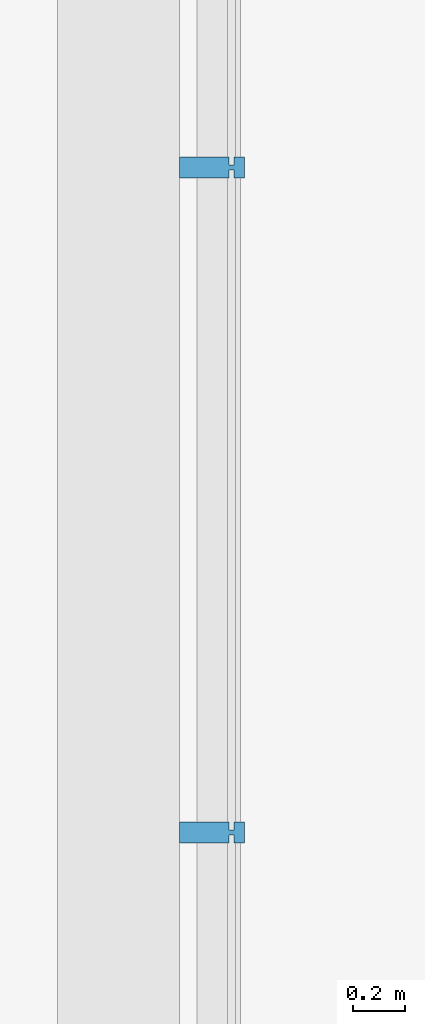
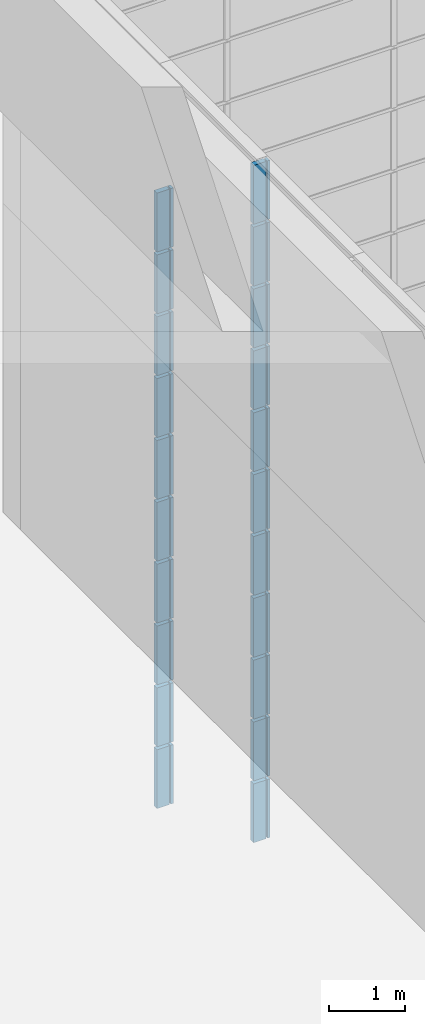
# One storey, part 78 of 105: 21 building element parts, 4 elements without a shape of their own.
"""IFC4 building model written with IfcOpenShell, lengths in millimetres."""

from ifc_helpers import new_model, entity, si_unit, converted_unit, derived_unit, direction, frame, origin_with_axes, place, context, subcontext, project, spatial, triangles, material, element, aggregate, save


model = new_model("IFC4")

# Units and contexts
model_context = context("Model", 3, precision=1e-05, world=origin_with_axes(), true_north=direction((0.0, 1.0)))
body_context = subcontext(model_context, "Body", "Model", "MODEL_VIEW")
ifc_project = project(units=[si_unit("LENGTHUNIT", "METRE", prefix="MILLI"), si_unit("AREAUNIT", "SQUARE_METRE"), si_unit("VOLUMEUNIT", "CUBIC_METRE"), converted_unit("PLANEANGLEUNIT", "DEGREE", entity("IfcLengthMeasure", 0.017453), si_unit("PLANEANGLEUNIT", "RADIAN"), dimensions=[0, 0, 0, 0, 0, 0, 0]), si_unit("SOLIDANGLEUNIT", "STERADIAN"), si_unit("MASSUNIT", "GRAM"), si_unit("TIMEUNIT", "SECOND"), si_unit("THERMODYNAMICTEMPERATUREUNIT", "DEGREE_CELSIUS"), si_unit("LUMINOUSINTENSITYUNIT", "LUMEN"), si_unit("POWERUNIT", "WATT"), derived_unit("THERMALTRANSMITTANCEUNIT", [(si_unit("POWERUNIT", "WATT"), 1), (si_unit("THERMODYNAMICTEMPERATUREUNIT", "KELVIN"), -1), (si_unit("AREAUNIT", "SQUARE_METRE"), -1)])], contexts=[model_context])

# Site, building, storey
site_placement = place(None, origin_with_axes())
site = spatial("IfcSite", under=ifc_project, at=site_placement, Name="Default Site", CompositionType="ELEMENT")
building_placement = place(site_placement, origin_with_axes())
building = spatial("IfcBuilding", under=site, at=building_placement, Name="Default Building", CompositionType="ELEMENT")
storey_placement = place(building_placement, origin_with_axes())
storey = spatial("IfcBuildingStorey", under=building, at=storey_placement, Name="OG - Story", CompositionType="ELEMENT", Elevation=0.0)

# Curtain wall, building element parts
curtain_wall_1_placement = place(storey_placement, origin_with_axes())
curtain_wall_1 = element("IfcCurtainWall", 1, at=curtain_wall_1_placement, inside=storey, Name="Fassade-006", PredefinedType="NOTDEFINED")
ifc_material = material(Name="Blech")
building_element_part_1_placement = place(curtain_wall_1_placement, frame((51421.391327, -39309.262838, 0.0), z_axis=(0.0, 0.0, 1.0), x_axis=(1.0, 0.0, 0.0)))
building_element_part_1 = element("IfcBuildingElementPart", 2, at=building_element_part_1_placement, material=ifc_material, Name="Blech", PredefinedType="NOTDEFINED", context=body_context, shape_type="Tessellation", body=[
    triangles([(50.0, 9000.0, 975.0), (10.0, 9000.0, 975.0), (50.0, 8920.0, 975.0), (10.0, 8970.0, 975.0), (10.0, 8950.0, 975.0), (-9.999, 8970.0, 975.0), (-9.999, 8950.0, 975.0), (-9.999, 8920.0, 975.0), (-9.999, 9000.0, 975.0), (-199.999, 9000.0, 975.0), (-199.999, 8920.0, 975.0), (10.0, 8920.0, 975.0), (-9.999, 8970.0, 25.0), (-9.999, 9000.0, 25.0), (-199.999, 9000.0, 25.0), (-199.999, 8920.0, 25.0), (-9.999, 8920.0, 25.0), (-9.999, 8950.0, 25.0), (10.0, 8950.0, 25.0), (10.0, 8920.0, 25.0), (50.0, 8920.0, 25.0), (50.0, 9000.0, 25.0), (10.0, 9000.0, 25.0), (10.0, 8970.0, 25.0)], [[1, 2, 3], [3, 2, 4], [3, 4, 5], [5, 4, 6], [5, 6, 7], [8, 9, 10], [8, 10, 11], [3, 5, 12], [9, 6, 13], [9, 13, 14], [9, 14, 15], [9, 15, 10], [10, 15, 16], [10, 16, 11], [8, 11, 16], [8, 16, 17], [8, 17, 18], [8, 18, 7], [7, 18, 19], [7, 19, 5], [12, 5, 19], [12, 19, 20], [20, 21, 3], [20, 3, 12], [3, 21, 22], [3, 22, 1], [23, 2, 1], [23, 1, 22], [4, 2, 23], [4, 23, 24], [6, 4, 24], [6, 24, 13], [21, 20, 22], [22, 20, 19], [22, 19, 24], [24, 19, 18], [24, 18, 13], [14, 17, 16], [14, 16, 15], [22, 24, 23]], closed=False),
])
building_element_part_2_placement = place(curtain_wall_1_placement, frame((51421.391327, -39309.262838, 0.0), z_axis=(0.0, 0.0, 1.0), x_axis=(1.0, 0.0, 0.0)))
building_element_part_2 = element("IfcBuildingElementPart", 3, at=building_element_part_2_placement, material=ifc_material, Name="Blech", PredefinedType="NOTDEFINED", context=body_context, shape_type="Tessellation", body=[
    triangles([(50.0, 6440.0, 1975.0), (10.0, 6440.0, 1975.0), (50.0, 6360.0, 1975.0), (10.0, 6410.0, 1975.0), (10.0, 6390.0, 1975.0), (-9.999, 6410.0, 1975.0), (-9.999, 6390.0, 1975.0), (-9.999, 6360.0, 1975.0), (-9.999, 6440.0, 1975.0), (-199.999, 6440.0, 1975.0), (-199.999, 6360.0, 1975.0), (10.0, 6360.0, 1975.0), (-9.999, 6410.0, 1025.0), (-9.999, 6440.0, 1025.0), (-199.999, 6440.0, 1025.0), (-199.999, 6360.0, 1025.0), (-9.999, 6360.0, 1025.0), (-9.999, 6390.0, 1025.0), (10.0, 6390.0, 1025.0), (10.0, 6360.0, 1025.0), (50.0, 6360.0, 1025.0), (50.0, 6440.0, 1025.0), (10.0, 6440.0, 1025.0), (10.0, 6410.0, 1025.0)], [[1, 2, 3], [3, 2, 4], [3, 4, 5], [5, 4, 6], [5, 6, 7], [8, 9, 10], [8, 10, 11], [3, 5, 12], [9, 6, 13], [9, 13, 14], [9, 14, 15], [9, 15, 10], [10, 15, 16], [10, 16, 11], [8, 11, 16], [8, 16, 17], [8, 17, 18], [8, 18, 7], [7, 18, 19], [7, 19, 5], [12, 5, 19], [12, 19, 20], [20, 21, 3], [20, 3, 12], [3, 21, 22], [3, 22, 1], [23, 2, 1], [23, 1, 22], [4, 2, 23], [4, 23, 24], [6, 4, 24], [6, 24, 13], [21, 20, 22], [22, 20, 19], [22, 19, 24], [24, 19, 18], [24, 18, 13], [14, 17, 16], [14, 16, 15], [22, 24, 23]], closed=False),
])
building_element_part_3_placement = place(curtain_wall_1_placement, frame((51421.391327, -39309.262838, 0.0), z_axis=(0.0, 0.0, 1.0), x_axis=(1.0, 0.0, 0.0)))
building_element_part_3 = element("IfcBuildingElementPart", 4, at=building_element_part_3_placement, material=ifc_material, Name="Blech", PredefinedType="NOTDEFINED", context=body_context, shape_type="Tessellation", body=[
    triangles([(50.0, 9000.0, 1975.0), (10.0, 9000.0, 1975.0), (50.0, 8920.0, 1975.0), (10.0, 8970.0, 1975.0), (10.0, 8950.0, 1975.0), (-9.999, 8970.0, 1975.0), (-9.999, 8950.0, 1975.0), (-9.999, 8920.0, 1975.0), (-9.999, 9000.0, 1975.0), (-199.999, 9000.0, 1975.0), (-199.999, 8920.0, 1975.0), (10.0, 8920.0, 1975.0), (-9.999, 8970.0, 1025.0), (-9.999, 9000.0, 1025.0), (-199.999, 9000.0, 1025.0), (-199.999, 8920.0, 1025.0), (-9.999, 8920.0, 1025.0), (-9.999, 8950.0, 1025.0), (10.0, 8950.0, 1025.0), (10.0, 8920.0, 1025.0), (50.0, 8920.0, 1025.0), (50.0, 9000.0, 1025.0), (10.0, 9000.0, 1025.0), (10.0, 8970.0, 1025.0)], [[1, 2, 3], [3, 2, 4], [3, 4, 5], [5, 4, 6], [5, 6, 7], [8, 9, 10], [8, 10, 11], [3, 5, 12], [9, 6, 13], [9, 13, 14], [9, 14, 15], [9, 15, 10], [10, 15, 16], [10, 16, 11], [8, 11, 16], [8, 16, 17], [8, 17, 18], [8, 18, 7], [7, 18, 19], [7, 19, 5], [12, 5, 19], [12, 19, 20], [20, 21, 3], [20, 3, 12], [3, 21, 22], [3, 22, 1], [23, 2, 1], [23, 1, 22], [4, 2, 23], [4, 23, 24], [6, 4, 24], [6, 24, 13], [21, 20, 22], [22, 20, 19], [22, 19, 24], [24, 19, 18], [24, 18, 13], [14, 17, 16], [14, 16, 15], [22, 24, 23]], closed=False),
])
building_element_part_4_placement = place(curtain_wall_1_placement, frame((51421.391327, -39309.262838, 0.0), z_axis=(0.0, 0.0, 1.0), x_axis=(1.0, 0.0, 0.0)))
building_element_part_4 = element("IfcBuildingElementPart", 5, at=building_element_part_4_placement, material=ifc_material, Name="Blech", PredefinedType="NOTDEFINED", context=body_context, shape_type="Tessellation", body=[
    triangles([(50.0, 6440.0, 2975.0), (10.0, 6440.0, 2975.0), (50.0, 6360.0, 2975.0), (10.0, 6410.0, 2975.0), (10.0, 6390.0, 2975.0), (-9.999, 6410.0, 2975.0), (-9.999, 6390.0, 2975.0), (-9.999, 6360.0, 2975.0), (-9.999, 6440.0, 2975.0), (-199.999, 6440.0, 2975.0), (-199.999, 6360.0, 2975.0), (10.0, 6360.0, 2975.0), (-9.999, 6410.0, 2025.0), (-9.999, 6440.0, 2025.0), (-199.999, 6440.0, 2025.0), (-199.999, 6360.0, 2025.0), (-9.999, 6360.0, 2025.0), (-9.999, 6390.0, 2025.0), (10.0, 6390.0, 2025.0), (10.0, 6360.0, 2025.0), (50.0, 6360.0, 2025.0), (50.0, 6440.0, 2025.0), (10.0, 6440.0, 2025.0), (10.0, 6410.0, 2025.0)], [[1, 2, 3], [3, 2, 4], [3, 4, 5], [5, 4, 6], [5, 6, 7], [8, 9, 10], [8, 10, 11], [3, 5, 12], [9, 6, 13], [9, 13, 14], [9, 14, 15], [9, 15, 10], [10, 15, 16], [10, 16, 11], [8, 11, 16], [8, 16, 17], [8, 17, 18], [8, 18, 7], [7, 18, 19], [7, 19, 5], [12, 5, 19], [12, 19, 20], [20, 21, 3], [20, 3, 12], [3, 21, 22], [3, 22, 1], [23, 2, 1], [23, 1, 22], [4, 2, 23], [4, 23, 24], [6, 4, 24], [6, 24, 13], [21, 20, 22], [22, 20, 19], [22, 19, 24], [24, 19, 18], [24, 18, 13], [14, 17, 16], [14, 16, 15], [22, 24, 23]], closed=False),
])
building_element_part_5_placement = place(curtain_wall_1_placement, frame((51421.391327, -39309.262838, 0.0), z_axis=(0.0, 0.0, 1.0), x_axis=(1.0, 0.0, 0.0)))
building_element_part_5 = element("IfcBuildingElementPart", 6, at=building_element_part_5_placement, material=ifc_material, Name="Blech", PredefinedType="NOTDEFINED", context=body_context, shape_type="Tessellation", body=[
    triangles([(50.0, 9000.0, 2975.0), (10.0, 9000.0, 2975.0), (50.0, 8920.0, 2975.0), (10.0, 8970.0, 2975.0), (10.0, 8950.0, 2975.0), (-9.999, 8970.0, 2975.0), (-9.999, 8950.0, 2975.0), (-9.999, 8920.0, 2975.0), (-9.999, 9000.0, 2975.0), (-199.999, 9000.0, 2975.0), (-199.999, 8920.0, 2975.0), (10.0, 8920.0, 2975.0), (-9.999, 8970.0, 2025.0), (-9.999, 9000.0, 2025.0), (-199.999, 9000.0, 2025.0), (-199.999, 8920.0, 2025.0), (-9.999, 8920.0, 2025.0), (-9.999, 8950.0, 2025.0), (10.0, 8950.0, 2025.0), (10.0, 8920.0, 2025.0), (50.0, 8920.0, 2025.0), (50.0, 9000.0, 2025.0), (10.0, 9000.0, 2025.0), (10.0, 8970.0, 2025.0)], [[1, 2, 3], [3, 2, 4], [3, 4, 5], [5, 4, 6], [5, 6, 7], [8, 9, 10], [8, 10, 11], [3, 5, 12], [9, 6, 13], [9, 13, 14], [9, 14, 15], [9, 15, 10], [10, 15, 16], [10, 16, 11], [8, 11, 16], [8, 16, 17], [8, 17, 18], [8, 18, 7], [7, 18, 19], [7, 19, 5], [12, 5, 19], [12, 19, 20], [20, 21, 3], [20, 3, 12], [3, 21, 22], [3, 22, 1], [23, 2, 1], [23, 1, 22], [4, 2, 23], [4, 23, 24], [6, 4, 24], [6, 24, 13], [21, 20, 22], [22, 20, 19], [22, 19, 24], [24, 19, 18], [24, 18, 13], [14, 17, 16], [14, 16, 15], [22, 24, 23]], closed=False),
])
aggregate(curtain_wall_1, [building_element_part_1, building_element_part_2, building_element_part_3, building_element_part_4, building_element_part_5])

curtain_wall_2_placement = place(storey_placement, origin_with_axes())
curtain_wall_2 = element("IfcCurtainWall", 7, at=curtain_wall_2_placement, inside=storey, Name="Fassade-006", PredefinedType="NOTDEFINED")
building_element_part_6_placement = place(curtain_wall_2_placement, frame((51421.391327, -39309.262838, 3000.0), z_axis=(0.0, 0.0, 1.0), x_axis=(1.0, 0.0, 0.0)))
building_element_part_6 = element("IfcBuildingElementPart", 8, at=building_element_part_6_placement, material=ifc_material, Name="Blech", PredefinedType="NOTDEFINED", context=body_context, shape_type="Tessellation", body=[
    triangles([(50.0, 6440.0, 975.0), (10.0, 6440.0, 975.0), (50.0, 6360.0, 975.0), (10.0, 6410.0, 975.0), (10.0, 6390.0, 975.0), (-9.999, 6410.0, 975.0), (-9.999, 6390.0, 975.0), (-9.999, 6360.0, 975.0), (-9.999, 6440.0, 975.0), (-199.999, 6440.0, 975.0), (-199.999, 6360.0, 975.0), (10.0, 6360.0, 975.0), (-9.999, 6410.0, 25.0), (-9.999, 6440.0, 25.0), (-199.999, 6440.0, 25.0), (-199.999, 6360.0, 25.0), (-9.999, 6360.0, 25.0), (-9.999, 6390.0, 25.0), (10.0, 6390.0, 25.0), (10.0, 6360.0, 25.0), (50.0, 6360.0, 25.0), (50.0, 6440.0, 25.0), (10.0, 6440.0, 25.0), (10.0, 6410.0, 25.0)], [[1, 2, 3], [3, 2, 4], [3, 4, 5], [5, 4, 6], [5, 6, 7], [8, 9, 10], [8, 10, 11], [3, 5, 12], [9, 6, 13], [9, 13, 14], [9, 14, 15], [9, 15, 10], [10, 15, 16], [10, 16, 11], [8, 11, 16], [8, 16, 17], [8, 17, 18], [8, 18, 7], [7, 18, 19], [7, 19, 5], [12, 5, 19], [12, 19, 20], [20, 21, 3], [20, 3, 12], [3, 21, 22], [3, 22, 1], [23, 2, 1], [23, 1, 22], [4, 2, 23], [4, 23, 24], [6, 4, 24], [6, 24, 13], [21, 20, 22], [22, 20, 19], [22, 19, 24], [24, 19, 18], [24, 18, 13], [14, 17, 16], [14, 16, 15], [22, 24, 23]], closed=False),
])
building_element_part_7_placement = place(curtain_wall_2_placement, frame((51421.391327, -39309.262838, 3000.0), z_axis=(0.0, 0.0, 1.0), x_axis=(1.0, 0.0, 0.0)))
building_element_part_7 = element("IfcBuildingElementPart", 9, at=building_element_part_7_placement, material=ifc_material, Name="Blech", PredefinedType="NOTDEFINED", context=body_context, shape_type="Tessellation", body=[
    triangles([(50.0, 9000.0, 975.0), (10.0, 9000.0, 975.0), (50.0, 8920.0, 975.0), (10.0, 8970.0, 975.0), (10.0, 8950.0, 975.0), (-9.999, 8970.0, 975.0), (-9.999, 8950.0, 975.0), (-9.999, 8920.0, 975.0), (-9.999, 9000.0, 975.0), (-199.999, 9000.0, 975.0), (-199.999, 8920.0, 975.0), (10.0, 8920.0, 975.0), (-9.999, 8970.0, 25.0), (-9.999, 9000.0, 25.0), (-199.999, 9000.0, 25.0), (-199.999, 8920.0, 25.0), (-9.999, 8920.0, 25.0), (-9.999, 8950.0, 25.0), (10.0, 8950.0, 25.0), (10.0, 8920.0, 25.0), (50.0, 8920.0, 25.0), (50.0, 9000.0, 25.0), (10.0, 9000.0, 25.0), (10.0, 8970.0, 25.0)], [[1, 2, 3], [3, 2, 4], [3, 4, 5], [5, 4, 6], [5, 6, 7], [8, 9, 10], [8, 10, 11], [3, 5, 12], [9, 6, 13], [9, 13, 14], [9, 14, 15], [9, 15, 10], [10, 15, 16], [10, 16, 11], [8, 11, 16], [8, 16, 17], [8, 17, 18], [8, 18, 7], [7, 18, 19], [7, 19, 5], [12, 5, 19], [12, 19, 20], [20, 21, 3], [20, 3, 12], [3, 21, 22], [3, 22, 1], [23, 2, 1], [23, 1, 22], [4, 2, 23], [4, 23, 24], [6, 4, 24], [6, 24, 13], [21, 20, 22], [22, 20, 19], [22, 19, 24], [24, 19, 18], [24, 18, 13], [14, 17, 16], [14, 16, 15], [22, 24, 23]], closed=False),
])
building_element_part_8_placement = place(curtain_wall_2_placement, frame((51421.391327, -39309.262838, 3000.0), z_axis=(0.0, 0.0, 1.0), x_axis=(1.0, 0.0, 0.0)))
building_element_part_8 = element("IfcBuildingElementPart", 10, at=building_element_part_8_placement, material=ifc_material, Name="Blech", PredefinedType="NOTDEFINED", context=body_context, shape_type="Tessellation", body=[
    triangles([(50.0, 6440.0, 1975.0), (10.0, 6440.0, 1975.0), (50.0, 6360.0, 1975.0), (10.0, 6410.0, 1975.0), (10.0, 6390.0, 1975.0), (-9.999, 6410.0, 1975.0), (-9.999, 6390.0, 1975.0), (-9.999, 6360.0, 1975.0), (-9.999, 6440.0, 1975.0), (-199.999, 6440.0, 1975.0), (-199.999, 6360.0, 1975.0), (10.0, 6360.0, 1975.0), (-9.999, 6410.0, 1025.0), (-9.999, 6440.0, 1025.0), (-199.999, 6440.0, 1025.0), (-199.999, 6360.0, 1025.0), (-9.999, 6360.0, 1025.0), (-9.999, 6390.0, 1025.0), (10.0, 6390.0, 1025.0), (10.0, 6360.0, 1025.0), (50.0, 6360.0, 1025.0), (50.0, 6440.0, 1025.0), (10.0, 6440.0, 1025.0), (10.0, 6410.0, 1025.0)], [[1, 2, 3], [3, 2, 4], [3, 4, 5], [5, 4, 6], [5, 6, 7], [8, 9, 10], [8, 10, 11], [3, 5, 12], [9, 6, 13], [9, 13, 14], [9, 14, 15], [9, 15, 10], [10, 15, 16], [10, 16, 11], [8, 11, 16], [8, 16, 17], [8, 17, 18], [8, 18, 7], [7, 18, 19], [7, 19, 5], [12, 5, 19], [12, 19, 20], [20, 21, 3], [20, 3, 12], [3, 21, 22], [3, 22, 1], [23, 2, 1], [23, 1, 22], [4, 2, 23], [4, 23, 24], [6, 4, 24], [6, 24, 13], [21, 20, 22], [22, 20, 19], [22, 19, 24], [24, 19, 18], [24, 18, 13], [14, 17, 16], [14, 16, 15], [22, 24, 23]], closed=False),
])
building_element_part_9_placement = place(curtain_wall_2_placement, frame((51421.391327, -39309.262838, 3000.0), z_axis=(0.0, 0.0, 1.0), x_axis=(1.0, 0.0, 0.0)))
building_element_part_9 = element("IfcBuildingElementPart", 11, at=building_element_part_9_placement, material=ifc_material, Name="Blech", PredefinedType="NOTDEFINED", context=body_context, shape_type="Tessellation", body=[
    triangles([(50.0, 9000.0, 1975.0), (10.0, 9000.0, 1975.0), (50.0, 8920.0, 1975.0), (10.0, 8970.0, 1975.0), (10.0, 8950.0, 1975.0), (-9.999, 8970.0, 1975.0), (-9.999, 8950.0, 1975.0), (-9.999, 8920.0, 1975.0), (-9.999, 9000.0, 1975.0), (-199.999, 9000.0, 1975.0), (-199.999, 8920.0, 1975.0), (10.0, 8920.0, 1975.0), (-9.999, 8970.0, 1025.0), (-9.999, 9000.0, 1025.0), (-199.999, 9000.0, 1025.0), (-199.999, 8920.0, 1025.0), (-9.999, 8920.0, 1025.0), (-9.999, 8950.0, 1025.0), (10.0, 8950.0, 1025.0), (10.0, 8920.0, 1025.0), (50.0, 8920.0, 1025.0), (50.0, 9000.0, 1025.0), (10.0, 9000.0, 1025.0), (10.0, 8970.0, 1025.0)], [[1, 2, 3], [3, 2, 4], [3, 4, 5], [5, 4, 6], [5, 6, 7], [8, 9, 10], [8, 10, 11], [3, 5, 12], [9, 6, 13], [9, 13, 14], [9, 14, 15], [9, 15, 10], [10, 15, 16], [10, 16, 11], [8, 11, 16], [8, 16, 17], [8, 17, 18], [8, 18, 7], [7, 18, 19], [7, 19, 5], [12, 5, 19], [12, 19, 20], [20, 21, 3], [20, 3, 12], [3, 21, 22], [3, 22, 1], [23, 2, 1], [23, 1, 22], [4, 2, 23], [4, 23, 24], [6, 4, 24], [6, 24, 13], [21, 20, 22], [22, 20, 19], [22, 19, 24], [24, 19, 18], [24, 18, 13], [14, 17, 16], [14, 16, 15], [22, 24, 23]], closed=False),
])
building_element_part_10_placement = place(curtain_wall_2_placement, frame((51421.391327, -39309.262838, 3000.0), z_axis=(0.0, 0.0, 1.0), x_axis=(1.0, 0.0, 0.0)))
building_element_part_10 = element("IfcBuildingElementPart", 12, at=building_element_part_10_placement, material=ifc_material, Name="Blech", PredefinedType="NOTDEFINED", context=body_context, shape_type="Tessellation", body=[
    triangles([(50.0, 6440.0, 2975.0), (10.0, 6440.0, 2975.0), (50.0, 6360.0, 2975.0), (10.0, 6410.0, 2975.0), (10.0, 6390.0, 2975.0), (-9.999, 6410.0, 2975.0), (-9.999, 6390.0, 2975.0), (-9.999, 6360.0, 2975.0), (-9.999, 6440.0, 2975.0), (-199.999, 6440.0, 2975.0), (-199.999, 6360.0, 2975.0), (10.0, 6360.0, 2975.0), (-9.999, 6410.0, 2025.0), (-9.999, 6440.0, 2025.0), (-199.999, 6440.0, 2025.0), (-199.999, 6360.0, 2025.0), (-9.999, 6360.0, 2025.0), (-9.999, 6390.0, 2025.0), (10.0, 6390.0, 2025.0), (10.0, 6360.0, 2025.0), (50.0, 6360.0, 2025.0), (50.0, 6440.0, 2025.0), (10.0, 6440.0, 2025.0), (10.0, 6410.0, 2025.0)], [[1, 2, 3], [3, 2, 4], [3, 4, 5], [5, 4, 6], [5, 6, 7], [8, 9, 10], [8, 10, 11], [3, 5, 12], [9, 6, 13], [9, 13, 14], [9, 14, 15], [9, 15, 10], [10, 15, 16], [10, 16, 11], [8, 11, 16], [8, 16, 17], [8, 17, 18], [8, 18, 7], [7, 18, 19], [7, 19, 5], [12, 5, 19], [12, 19, 20], [20, 21, 3], [20, 3, 12], [3, 21, 22], [3, 22, 1], [23, 2, 1], [23, 1, 22], [4, 2, 23], [4, 23, 24], [6, 4, 24], [6, 24, 13], [21, 20, 22], [22, 20, 19], [22, 19, 24], [24, 19, 18], [24, 18, 13], [14, 17, 16], [14, 16, 15], [22, 24, 23]], closed=False),
])
building_element_part_11_placement = place(curtain_wall_2_placement, frame((51421.391327, -39309.262838, 3000.0), z_axis=(0.0, 0.0, 1.0), x_axis=(1.0, 0.0, 0.0)))
building_element_part_11 = element("IfcBuildingElementPart", 13, at=building_element_part_11_placement, material=ifc_material, Name="Blech", PredefinedType="NOTDEFINED", context=body_context, shape_type="Tessellation", body=[
    triangles([(50.0, 9000.0, 2975.0), (10.0, 9000.0, 2975.0), (50.0, 8920.0, 2975.0), (10.0, 8970.0, 2975.0), (10.0, 8950.0, 2975.0), (-9.999, 8970.0, 2975.0), (-9.999, 8950.0, 2975.0), (-9.999, 8920.0, 2975.0), (-9.999, 9000.0, 2975.0), (-199.999, 9000.0, 2975.0), (-199.999, 8920.0, 2975.0), (10.0, 8920.0, 2975.0), (-9.999, 8970.0, 2025.0), (-9.999, 9000.0, 2025.0), (-199.999, 9000.0, 2025.0), (-199.999, 8920.0, 2025.0), (-9.999, 8920.0, 2025.0), (-9.999, 8950.0, 2025.0), (10.0, 8950.0, 2025.0), (10.0, 8920.0, 2025.0), (50.0, 8920.0, 2025.0), (50.0, 9000.0, 2025.0), (10.0, 9000.0, 2025.0), (10.0, 8970.0, 2025.0)], [[1, 2, 3], [3, 2, 4], [3, 4, 5], [5, 4, 6], [5, 6, 7], [8, 9, 10], [8, 10, 11], [3, 5, 12], [9, 6, 13], [9, 13, 14], [9, 14, 15], [9, 15, 10], [10, 15, 16], [10, 16, 11], [8, 11, 16], [8, 16, 17], [8, 17, 18], [8, 18, 7], [7, 18, 19], [7, 19, 5], [12, 5, 19], [12, 19, 20], [20, 21, 3], [20, 3, 12], [3, 21, 22], [3, 22, 1], [23, 2, 1], [23, 1, 22], [4, 2, 23], [4, 23, 24], [6, 4, 24], [6, 24, 13], [21, 20, 22], [22, 20, 19], [22, 19, 24], [24, 19, 18], [24, 18, 13], [14, 17, 16], [14, 16, 15], [22, 24, 23]], closed=False),
])
aggregate(curtain_wall_2, [building_element_part_6, building_element_part_7, building_element_part_8, building_element_part_9, building_element_part_10, building_element_part_11])

curtain_wall_3_placement = place(storey_placement, origin_with_axes())
curtain_wall_3 = element("IfcCurtainWall", 14, at=curtain_wall_3_placement, inside=storey, Name="Fassade-006", PredefinedType="NOTDEFINED")
building_element_part_12_placement = place(curtain_wall_3_placement, frame((51421.391327, -39309.262838, 6000.0), z_axis=(0.0, 0.0, 1.0), x_axis=(1.0, 0.0, 0.0)))
building_element_part_12 = element("IfcBuildingElementPart", 15, at=building_element_part_12_placement, material=ifc_material, Name="Blech", PredefinedType="NOTDEFINED", context=body_context, shape_type="Tessellation", body=[
    triangles([(50.0, 6440.0, 975.0), (10.0, 6440.0, 975.0), (50.0, 6360.0, 975.0), (10.0, 6410.0, 975.0), (10.0, 6390.0, 975.0), (-9.999, 6410.0, 975.0), (-9.999, 6390.0, 975.0), (-9.999, 6360.0, 975.0), (-9.999, 6440.0, 975.0), (-199.999, 6440.0, 975.0), (-199.999, 6360.0, 975.0), (10.0, 6360.0, 975.0), (-9.999, 6410.0, 25.0), (-9.999, 6440.0, 25.0), (-199.999, 6440.0, 25.0), (-199.999, 6360.0, 25.0), (-9.999, 6360.0, 25.0), (-9.999, 6390.0, 25.0), (10.0, 6390.0, 25.0), (10.0, 6360.0, 25.0), (50.0, 6360.0, 25.0), (50.0, 6440.0, 25.0), (10.0, 6440.0, 25.0), (10.0, 6410.0, 25.0)], [[1, 2, 3], [3, 2, 4], [3, 4, 5], [5, 4, 6], [5, 6, 7], [8, 9, 10], [8, 10, 11], [3, 5, 12], [9, 6, 13], [9, 13, 14], [9, 14, 15], [9, 15, 10], [10, 15, 16], [10, 16, 11], [8, 11, 16], [8, 16, 17], [8, 17, 18], [8, 18, 7], [7, 18, 19], [7, 19, 5], [12, 5, 19], [12, 19, 20], [20, 21, 3], [20, 3, 12], [3, 21, 22], [3, 22, 1], [23, 2, 1], [23, 1, 22], [4, 2, 23], [4, 23, 24], [6, 4, 24], [6, 24, 13], [21, 20, 22], [22, 20, 19], [22, 19, 24], [24, 19, 18], [24, 18, 13], [14, 17, 16], [14, 16, 15], [22, 24, 23]], closed=False),
])
building_element_part_13_placement = place(curtain_wall_3_placement, frame((51421.391327, -39309.262838, 6000.0), z_axis=(0.0, 0.0, 1.0), x_axis=(1.0, 0.0, 0.0)))
building_element_part_13 = element("IfcBuildingElementPart", 16, at=building_element_part_13_placement, material=ifc_material, Name="Blech", PredefinedType="NOTDEFINED", context=body_context, shape_type="Tessellation", body=[
    triangles([(50.0, 9000.0, 975.0), (10.0, 9000.0, 975.0), (50.0, 8920.0, 975.0), (10.0, 8970.0, 975.0), (10.0, 8950.0, 975.0), (-9.999, 8970.0, 975.0), (-9.999, 8950.0, 975.0), (-9.999, 8920.0, 975.0), (-9.999, 9000.0, 975.0), (-199.999, 9000.0, 975.0), (-199.999, 8920.0, 975.0), (10.0, 8920.0, 975.0), (-9.999, 8970.0, 25.0), (-9.999, 9000.0, 25.0), (-199.999, 9000.0, 25.0), (-199.999, 8920.0, 25.0), (-9.999, 8920.0, 25.0), (-9.999, 8950.0, 25.0), (10.0, 8950.0, 25.0), (10.0, 8920.0, 25.0), (50.0, 8920.0, 25.0), (50.0, 9000.0, 25.0), (10.0, 9000.0, 25.0), (10.0, 8970.0, 25.0)], [[1, 2, 3], [3, 2, 4], [3, 4, 5], [5, 4, 6], [5, 6, 7], [8, 9, 10], [8, 10, 11], [3, 5, 12], [9, 6, 13], [9, 13, 14], [9, 14, 15], [9, 15, 10], [10, 15, 16], [10, 16, 11], [8, 11, 16], [8, 16, 17], [8, 17, 18], [8, 18, 7], [7, 18, 19], [7, 19, 5], [12, 5, 19], [12, 19, 20], [20, 21, 3], [20, 3, 12], [3, 21, 22], [3, 22, 1], [23, 2, 1], [23, 1, 22], [4, 2, 23], [4, 23, 24], [6, 4, 24], [6, 24, 13], [21, 20, 22], [22, 20, 19], [22, 19, 24], [24, 19, 18], [24, 18, 13], [14, 17, 16], [14, 16, 15], [22, 24, 23]], closed=False),
])
building_element_part_14_placement = place(curtain_wall_3_placement, frame((51421.391327, -39309.262838, 6000.0), z_axis=(0.0, 0.0, 1.0), x_axis=(1.0, 0.0, 0.0)))
building_element_part_14 = element("IfcBuildingElementPart", 17, at=building_element_part_14_placement, material=ifc_material, Name="Blech", PredefinedType="NOTDEFINED", context=body_context, shape_type="Tessellation", body=[
    triangles([(50.0, 6440.0, 1975.0), (10.0, 6440.0, 1975.0), (50.0, 6360.0, 1975.0), (10.0, 6410.0, 1975.0), (10.0, 6390.0, 1975.0), (-9.999, 6410.0, 1975.0), (-9.999, 6390.0, 1975.0), (-9.999, 6360.0, 1975.0), (-9.999, 6440.0, 1975.0), (-199.999, 6440.0, 1975.0), (-199.999, 6360.0, 1975.0), (10.0, 6360.0, 1975.0), (-9.999, 6410.0, 1025.0), (-9.999, 6440.0, 1025.0), (-199.999, 6440.0, 1025.0), (-199.999, 6360.0, 1025.0), (-9.999, 6360.0, 1025.0), (-9.999, 6390.0, 1025.0), (10.0, 6390.0, 1025.0), (10.0, 6360.0, 1025.0), (50.0, 6360.0, 1025.0), (50.0, 6440.0, 1025.0), (10.0, 6440.0, 1025.0), (10.0, 6410.0, 1025.0)], [[1, 2, 3], [3, 2, 4], [3, 4, 5], [5, 4, 6], [5, 6, 7], [8, 9, 10], [8, 10, 11], [3, 5, 12], [9, 6, 13], [9, 13, 14], [9, 14, 15], [9, 15, 10], [10, 15, 16], [10, 16, 11], [8, 11, 16], [8, 16, 17], [8, 17, 18], [8, 18, 7], [7, 18, 19], [7, 19, 5], [12, 5, 19], [12, 19, 20], [20, 21, 3], [20, 3, 12], [3, 21, 22], [3, 22, 1], [23, 2, 1], [23, 1, 22], [4, 2, 23], [4, 23, 24], [6, 4, 24], [6, 24, 13], [21, 20, 22], [22, 20, 19], [22, 19, 24], [24, 19, 18], [24, 18, 13], [14, 17, 16], [14, 16, 15], [22, 24, 23]], closed=False),
])
building_element_part_15_placement = place(curtain_wall_3_placement, frame((51421.391327, -39309.262838, 6000.0), z_axis=(0.0, 0.0, 1.0), x_axis=(1.0, 0.0, 0.0)))
building_element_part_15 = element("IfcBuildingElementPart", 18, at=building_element_part_15_placement, material=ifc_material, Name="Blech", PredefinedType="NOTDEFINED", context=body_context, shape_type="Tessellation", body=[
    triangles([(50.0, 9000.0, 1975.0), (10.0, 9000.0, 1975.0), (50.0, 8920.0, 1975.0), (10.0, 8970.0, 1975.0), (10.0, 8950.0, 1975.0), (-9.999, 8970.0, 1975.0), (-9.999, 8950.0, 1975.0), (-9.999, 8920.0, 1975.0), (-9.999, 9000.0, 1975.0), (-199.999, 9000.0, 1975.0), (-199.999, 8920.0, 1975.0), (10.0, 8920.0, 1975.0), (-9.999, 8970.0, 1025.0), (-9.999, 9000.0, 1025.0), (-199.999, 9000.0, 1025.0), (-199.999, 8920.0, 1025.0), (-9.999, 8920.0, 1025.0), (-9.999, 8950.0, 1025.0), (10.0, 8950.0, 1025.0), (10.0, 8920.0, 1025.0), (50.0, 8920.0, 1025.0), (50.0, 9000.0, 1025.0), (10.0, 9000.0, 1025.0), (10.0, 8970.0, 1025.0)], [[1, 2, 3], [3, 2, 4], [3, 4, 5], [5, 4, 6], [5, 6, 7], [8, 9, 10], [8, 10, 11], [3, 5, 12], [9, 6, 13], [9, 13, 14], [9, 14, 15], [9, 15, 10], [10, 15, 16], [10, 16, 11], [8, 11, 16], [8, 16, 17], [8, 17, 18], [8, 18, 7], [7, 18, 19], [7, 19, 5], [12, 5, 19], [12, 19, 20], [20, 21, 3], [20, 3, 12], [3, 21, 22], [3, 22, 1], [23, 2, 1], [23, 1, 22], [4, 2, 23], [4, 23, 24], [6, 4, 24], [6, 24, 13], [21, 20, 22], [22, 20, 19], [22, 19, 24], [24, 19, 18], [24, 18, 13], [14, 17, 16], [14, 16, 15], [22, 24, 23]], closed=False),
])
building_element_part_16_placement = place(curtain_wall_3_placement, frame((51421.391327, -39309.262838, 6000.0), z_axis=(0.0, 0.0, 1.0), x_axis=(1.0, 0.0, 0.0)))
building_element_part_16 = element("IfcBuildingElementPart", 19, at=building_element_part_16_placement, material=ifc_material, Name="Blech", PredefinedType="NOTDEFINED", context=body_context, shape_type="Tessellation", body=[
    triangles([(50.0, 6440.0, 2975.0), (10.0, 6440.0, 2975.0), (50.0, 6360.0, 2975.0), (10.0, 6410.0, 2975.0), (10.0, 6390.0, 2975.0), (-9.999, 6410.0, 2975.0), (-9.999, 6390.0, 2975.0), (-9.999, 6360.0, 2975.0), (-9.999, 6440.0, 2975.0), (-199.999, 6440.0, 2975.0), (-199.999, 6360.0, 2975.0), (10.0, 6360.0, 2975.0), (-9.999, 6410.0, 2025.0), (-9.999, 6440.0, 2025.0), (-199.999, 6440.0, 2025.0), (-199.999, 6360.0, 2025.0), (-9.999, 6360.0, 2025.0), (-9.999, 6390.0, 2025.0), (10.0, 6390.0, 2025.0), (10.0, 6360.0, 2025.0), (50.0, 6360.0, 2025.0), (50.0, 6440.0, 2025.0), (10.0, 6440.0, 2025.0), (10.0, 6410.0, 2025.0)], [[1, 2, 3], [3, 2, 4], [3, 4, 5], [5, 4, 6], [5, 6, 7], [8, 9, 10], [8, 10, 11], [3, 5, 12], [9, 6, 13], [9, 13, 14], [9, 14, 15], [9, 15, 10], [10, 15, 16], [10, 16, 11], [8, 11, 16], [8, 16, 17], [8, 17, 18], [8, 18, 7], [7, 18, 19], [7, 19, 5], [12, 5, 19], [12, 19, 20], [20, 21, 3], [20, 3, 12], [3, 21, 22], [3, 22, 1], [23, 2, 1], [23, 1, 22], [4, 2, 23], [4, 23, 24], [6, 4, 24], [6, 24, 13], [21, 20, 22], [22, 20, 19], [22, 19, 24], [24, 19, 18], [24, 18, 13], [14, 17, 16], [14, 16, 15], [22, 24, 23]], closed=False),
])
building_element_part_17_placement = place(curtain_wall_3_placement, frame((51421.391327, -39309.262838, 6000.0), z_axis=(0.0, 0.0, 1.0), x_axis=(1.0, 0.0, 0.0)))
building_element_part_17 = element("IfcBuildingElementPart", 20, at=building_element_part_17_placement, material=ifc_material, Name="Blech", PredefinedType="NOTDEFINED", context=body_context, shape_type="Tessellation", body=[
    triangles([(50.0, 9000.0, 2975.0), (10.0, 9000.0, 2975.0), (50.0, 8920.0, 2975.0), (10.0, 8970.0, 2975.0), (10.0, 8950.0, 2975.0), (-9.999, 8970.0, 2975.0), (-9.999, 8950.0, 2975.0), (-9.999, 8920.0, 2975.0), (-9.999, 9000.0, 2975.0), (-199.999, 9000.0, 2975.0), (-199.999, 8920.0, 2975.0), (10.0, 8920.0, 2975.0), (-9.999, 8970.0, 2025.0), (-9.999, 9000.0, 2025.0), (-199.999, 9000.0, 2025.0), (-199.999, 8920.0, 2025.0), (-9.999, 8920.0, 2025.0), (-9.999, 8950.0, 2025.0), (10.0, 8950.0, 2025.0), (10.0, 8920.0, 2025.0), (50.0, 8920.0, 2025.0), (50.0, 9000.0, 2025.0), (10.0, 9000.0, 2025.0), (10.0, 8970.0, 2025.0)], [[1, 2, 3], [3, 2, 4], [3, 4, 5], [5, 4, 6], [5, 6, 7], [8, 9, 10], [8, 10, 11], [3, 5, 12], [9, 6, 13], [9, 13, 14], [9, 14, 15], [9, 15, 10], [10, 15, 16], [10, 16, 11], [8, 11, 16], [8, 16, 17], [8, 17, 18], [8, 18, 7], [7, 18, 19], [7, 19, 5], [12, 5, 19], [12, 19, 20], [20, 21, 3], [20, 3, 12], [3, 21, 22], [3, 22, 1], [23, 2, 1], [23, 1, 22], [4, 2, 23], [4, 23, 24], [6, 4, 24], [6, 24, 13], [21, 20, 22], [22, 20, 19], [22, 19, 24], [24, 19, 18], [24, 18, 13], [14, 17, 16], [14, 16, 15], [22, 24, 23]], closed=False),
])
aggregate(curtain_wall_3, [building_element_part_12, building_element_part_13, building_element_part_14, building_element_part_15, building_element_part_16, building_element_part_17])

curtain_wall_4_placement = place(storey_placement, origin_with_axes())
curtain_wall_4 = element("IfcCurtainWall", 21, at=curtain_wall_4_placement, inside=storey, Name="Fassade-006", PredefinedType="NOTDEFINED")
building_element_part_18_placement = place(curtain_wall_4_placement, frame((51421.391327, -39309.262838, 9000.0), z_axis=(0.0, 0.0, 1.0), x_axis=(1.0, 0.0, 0.0)))
building_element_part_18 = element("IfcBuildingElementPart", 22, at=building_element_part_18_placement, material=ifc_material, Name="Blech", PredefinedType="NOTDEFINED", context=body_context, shape_type="Tessellation", body=[
    triangles([(50.0, 6440.0, 975.0), (10.0, 6440.0, 975.0), (50.0, 6360.0, 975.0), (10.0, 6410.0, 975.0), (10.0, 6390.0, 975.0), (-9.999, 6410.0, 975.0), (-9.999, 6390.0, 975.0), (-9.999, 6360.0, 975.0), (-9.999, 6440.0, 975.0), (-199.999, 6440.0, 975.0), (-199.999, 6360.0, 975.0), (10.0, 6360.0, 975.0), (-9.999, 6410.0, 25.0), (-9.999, 6440.0, 25.0), (-199.999, 6440.0, 25.0), (-199.999, 6360.0, 25.0), (-9.999, 6360.0, 25.0), (-9.999, 6390.0, 25.0), (10.0, 6390.0, 25.0), (10.0, 6360.0, 25.0), (50.0, 6360.0, 25.0), (50.0, 6440.0, 25.0), (10.0, 6440.0, 25.0), (10.0, 6410.0, 25.0)], [[1, 2, 3], [3, 2, 4], [3, 4, 5], [5, 4, 6], [5, 6, 7], [8, 9, 10], [8, 10, 11], [3, 5, 12], [9, 6, 13], [9, 13, 14], [9, 14, 15], [9, 15, 10], [10, 15, 16], [10, 16, 11], [8, 11, 16], [8, 16, 17], [8, 17, 18], [8, 18, 7], [7, 18, 19], [7, 19, 5], [12, 5, 19], [12, 19, 20], [20, 21, 3], [20, 3, 12], [3, 21, 22], [3, 22, 1], [23, 2, 1], [23, 1, 22], [4, 2, 23], [4, 23, 24], [6, 4, 24], [6, 24, 13], [21, 20, 22], [22, 20, 19], [22, 19, 24], [24, 19, 18], [24, 18, 13], [14, 17, 16], [14, 16, 15], [22, 24, 23]], closed=False),
])
building_element_part_19_placement = place(curtain_wall_4_placement, frame((51421.391327, -39309.262838, 9000.0), z_axis=(0.0, 0.0, 1.0), x_axis=(1.0, 0.0, 0.0)))
building_element_part_19 = element("IfcBuildingElementPart", 23, at=building_element_part_19_placement, material=ifc_material, Name="Blech", PredefinedType="NOTDEFINED", context=body_context, shape_type="Tessellation", body=[
    triangles([(50.0, 9000.0, 975.0), (10.0, 9000.0, 975.0), (50.0, 8920.0, 975.0), (10.0, 8970.0, 975.0), (10.0, 8950.0, 975.0), (-9.999, 8970.0, 975.0), (-9.999, 8950.0, 975.0), (-9.999, 8920.0, 975.0), (-9.999, 9000.0, 975.0), (-199.999, 9000.0, 975.0), (-199.999, 8920.0, 975.0), (10.0, 8920.0, 975.0), (-9.999, 8970.0, 25.0), (-9.999, 9000.0, 25.0), (-199.999, 9000.0, 25.0), (-199.999, 8920.0, 25.0), (-9.999, 8920.0, 25.0), (-9.999, 8950.0, 25.0), (10.0, 8950.0, 25.0), (10.0, 8920.0, 25.0), (50.0, 8920.0, 25.0), (50.0, 9000.0, 25.0), (10.0, 9000.0, 25.0), (10.0, 8970.0, 25.0)], [[1, 2, 3], [3, 2, 4], [3, 4, 5], [5, 4, 6], [5, 6, 7], [8, 9, 10], [8, 10, 11], [3, 5, 12], [9, 6, 13], [9, 13, 14], [9, 14, 15], [9, 15, 10], [10, 15, 16], [10, 16, 11], [8, 11, 16], [8, 16, 17], [8, 17, 18], [8, 18, 7], [7, 18, 19], [7, 19, 5], [12, 5, 19], [12, 19, 20], [20, 21, 3], [20, 3, 12], [3, 21, 22], [3, 22, 1], [23, 2, 1], [23, 1, 22], [4, 2, 23], [4, 23, 24], [6, 4, 24], [6, 24, 13], [21, 20, 22], [22, 20, 19], [22, 19, 24], [24, 19, 18], [24, 18, 13], [14, 17, 16], [14, 16, 15], [22, 24, 23]], closed=False),
])
building_element_part_20_placement = place(curtain_wall_4_placement, frame((51421.391327, -39309.262838, 9000.0), z_axis=(0.0, 0.0, 1.0), x_axis=(1.0, 0.0, 0.0)))
building_element_part_20 = element("IfcBuildingElementPart", 24, at=building_element_part_20_placement, material=ifc_material, Name="Blech", PredefinedType="NOTDEFINED", context=body_context, shape_type="Tessellation", body=[
    triangles([(50.0, 6440.0, 1975.0), (10.0, 6440.0, 1975.0), (50.0, 6360.0, 1975.0), (10.0, 6410.0, 1975.0), (10.0, 6390.0, 1975.0), (-9.999, 6410.0, 1975.0), (-9.999, 6390.0, 1975.0), (-9.999, 6360.0, 1975.0), (-9.999, 6440.0, 1975.0), (-199.999, 6440.0, 1975.0), (-199.999, 6360.0, 1975.0), (10.0, 6360.0, 1975.0), (-9.999, 6410.0, 1025.0), (-9.999, 6440.0, 1025.0), (-199.999, 6440.0, 1025.0), (-199.999, 6360.0, 1025.0), (-9.999, 6360.0, 1025.0), (-9.999, 6390.0, 1025.0), (10.0, 6390.0, 1025.0), (10.0, 6360.0, 1025.0), (50.0, 6360.0, 1025.0), (50.0, 6440.0, 1025.0), (10.0, 6440.0, 1025.0), (10.0, 6410.0, 1025.0)], [[1, 2, 3], [3, 2, 4], [3, 4, 5], [5, 4, 6], [5, 6, 7], [8, 9, 10], [8, 10, 11], [3, 5, 12], [9, 6, 13], [9, 13, 14], [9, 14, 15], [9, 15, 10], [10, 15, 16], [10, 16, 11], [8, 11, 16], [8, 16, 17], [8, 17, 18], [8, 18, 7], [7, 18, 19], [7, 19, 5], [12, 5, 19], [12, 19, 20], [20, 21, 3], [20, 3, 12], [3, 21, 22], [3, 22, 1], [23, 2, 1], [23, 1, 22], [4, 2, 23], [4, 23, 24], [6, 4, 24], [6, 24, 13], [21, 20, 22], [22, 20, 19], [22, 19, 24], [24, 19, 18], [24, 18, 13], [14, 17, 16], [14, 16, 15], [22, 24, 23]], closed=False),
])
building_element_part_21_placement = place(curtain_wall_4_placement, frame((51421.391327, -39309.262838, 9000.0), z_axis=(0.0, 0.0, 1.0), x_axis=(1.0, 0.0, 0.0)))
building_element_part_21 = element("IfcBuildingElementPart", 25, at=building_element_part_21_placement, material=ifc_material, Name="Blech", PredefinedType="NOTDEFINED", context=body_context, shape_type="Tessellation", body=[
    triangles([(50.0, 6440.0, 2975.0), (10.0, 6440.0, 2975.0), (50.0, 6360.0, 2975.0), (10.0, 6410.0, 2975.0), (10.0, 6390.0, 2975.0), (-9.999, 6410.0, 2975.0), (-9.999, 6390.0, 2975.0), (-9.999, 6360.0, 2975.0), (-9.999, 6440.0, 2975.0), (-199.999, 6440.0, 2975.0), (-199.999, 6360.0, 2975.0), (10.0, 6360.0, 2975.0), (-9.999, 6410.0, 2025.0), (-9.999, 6440.0, 2025.0), (-199.999, 6440.0, 2025.0), (-199.999, 6360.0, 2025.0), (-9.999, 6360.0, 2025.0), (-9.999, 6390.0, 2025.0), (10.0, 6390.0, 2025.0), (10.0, 6360.0, 2025.0), (50.0, 6360.0, 2025.0), (50.0, 6440.0, 2025.0), (10.0, 6440.0, 2025.0), (10.0, 6410.0, 2025.0)], [[1, 2, 3], [3, 2, 4], [3, 4, 5], [5, 4, 6], [5, 6, 7], [8, 9, 10], [8, 10, 11], [3, 5, 12], [9, 6, 13], [9, 13, 14], [9, 14, 15], [9, 15, 10], [10, 15, 16], [10, 16, 11], [8, 11, 16], [8, 16, 17], [8, 17, 18], [8, 18, 7], [7, 18, 19], [7, 19, 5], [12, 5, 19], [12, 19, 20], [20, 21, 3], [20, 3, 12], [3, 21, 22], [3, 22, 1], [23, 2, 1], [23, 1, 22], [4, 2, 23], [4, 23, 24], [6, 4, 24], [6, 24, 13], [21, 20, 22], [22, 20, 19], [22, 19, 24], [24, 19, 18], [24, 18, 13], [14, 17, 16], [14, 16, 15], [22, 24, 23]], closed=False),
])
aggregate(curtain_wall_4, [building_element_part_18, building_element_part_19, building_element_part_20, building_element_part_21])

save(model, "model.ifc")
